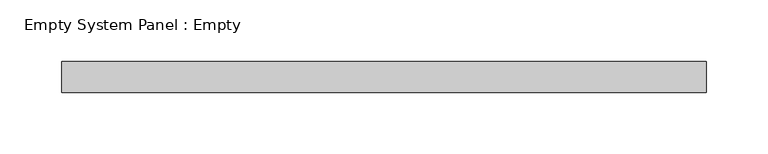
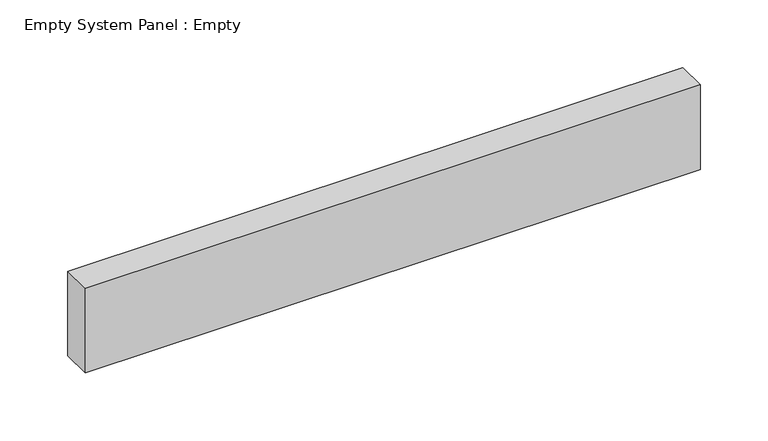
"""IFC4 building model written with IfcOpenShell, lengths in millimetres: plate geometry, Empty System Panel : Empty."""

from ifc_helpers import new_model, si_unit, origin, origin_with_axes, place, context, project, spatial, polyline, outline, extrude, source, transform, mapped, element, save


def empty_system_panel_empty_4b95af57(model_context):
    return source(origin(), model_context, "Body", "SweptSolid", [
        extrude(outline(polyline([(261.7073925, 19.05), (-261.7073925, 19.05), (-261.7073925, 44.45), (261.7073925, 44.45), (261.7073925, 19.05)])), origin_with_axes(), (0.0, 0.0, 1.0), 76.2),
    ])


if __name__ == "__main__":
    model = new_model("IFC4")
    model_context = context("Model", 3, world=origin())
    ifc_project = project(units=[si_unit("LENGTHUNIT", "METRE", prefix="MILLI")], contexts=[model_context])
    site = spatial("IfcSite", under=ifc_project)
    building = spatial("IfcBuilding", under=site)
    placement = place(None, origin())
    empty_system_panel_empty_shape = empty_system_panel_empty_4b95af57(model_context)
    element("IfcPlate", 1, ObjectType="Empty System Panel : Empty", at=placement, inside=building, context=model_context, shape_type="MappedRepresentation", body=[
        mapped(empty_system_panel_empty_shape, transform((0.0, 0.0, 0.0), x_axis=(1.0, 0.0, 0.0), y_axis=(0.0, 1.0, 0.0), z_axis=(0.0, 0.0, 1.0))),
    ])
    save(model, "model.ifc")
